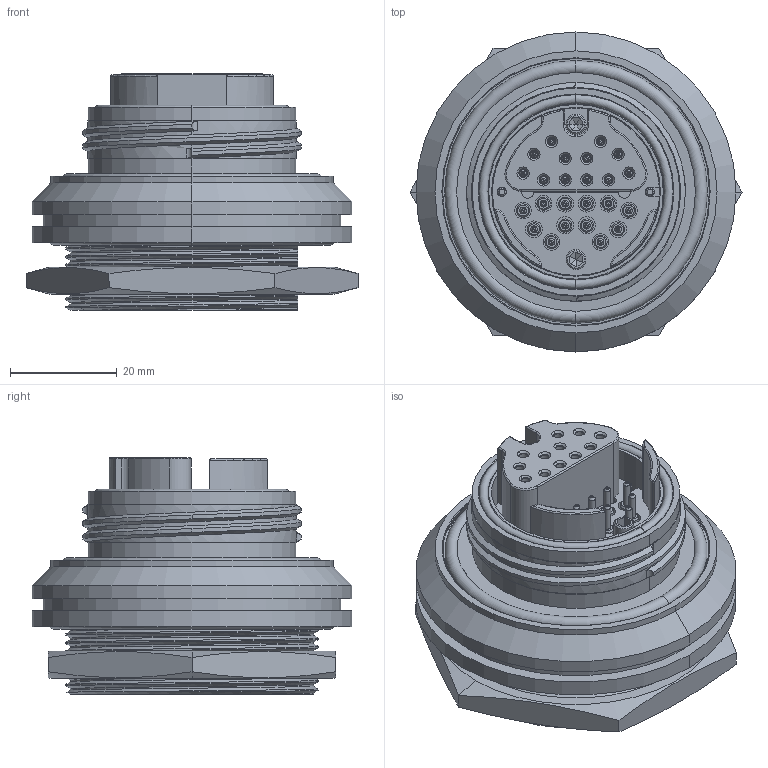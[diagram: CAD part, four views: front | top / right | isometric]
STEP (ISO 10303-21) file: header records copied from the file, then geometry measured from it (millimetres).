
FILE_DESCRIPTION (( 'STEP AP214' ), '1' );
FILE_NAME ('QFOCA3-RJFX-24X-X-S0X.STEP', '2025-08-05T22:00:44', ( '' ), ( '' ), 'SwSTEP 2.0', 'SolidWorks 2024', '' );
FILE_SCHEMA (( 'AUTOMOTIVE_DESIGN' ));
Length unit declared in the file: inch
Products named in the file (1): QFOCA3-RJFX-24X-X-S0X
Bounding box: 62.33 x 60.07 x 44.45 mm (x, y, z)
Volume: 57339.2 mm3; surface area: 30245.5 mm2
Topology: 17 solids, 19 shells, 1467 faces, 3275 edges, 1978 vertices
Faces by surface type: cylinder 583, torus 288, cone 282, plane 277, bspline 37
Entity records: 51745 total; most frequent: CARTESIAN_POINT 18492, DIRECTION 7571, ORIENTED_EDGE 6550, EDGE_CURVE 3275, AXIS2_PLACEMENT_3D 3248, VERTEX_POINT 1978, CIRCLE 1817, EDGE_LOOP 1641
